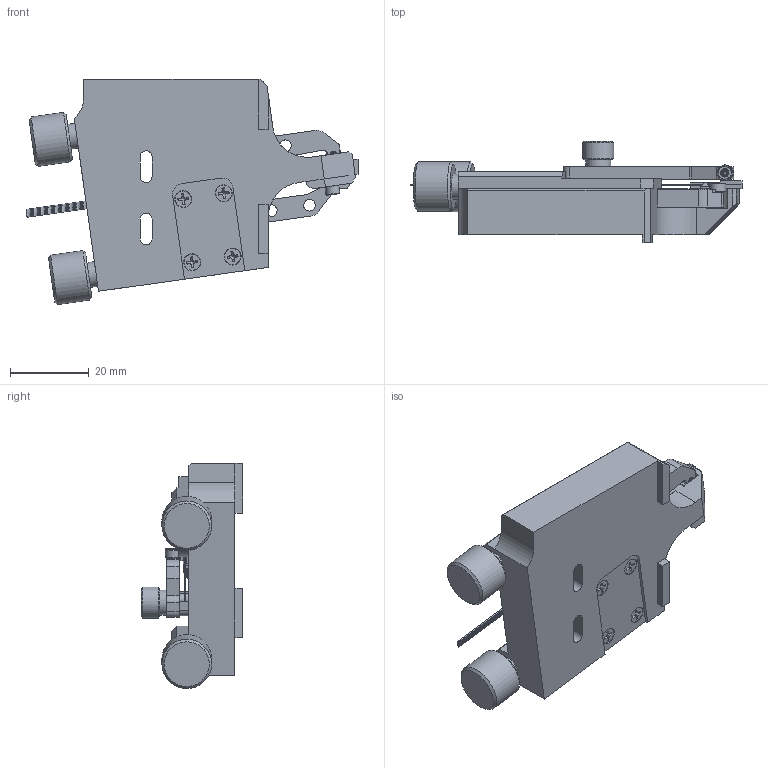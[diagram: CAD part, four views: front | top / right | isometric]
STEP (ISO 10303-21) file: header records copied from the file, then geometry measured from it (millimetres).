
FILE_DESCRIPTION(('', 'CAx-IF Rec.Pracs.---Representation and Presentation of Product Manufacturing Information (PMI)---4.0---2014-10-13'),'2;1');
FILE_NAME('C:/Users/JacobDiepeveen/OneDrive - Luminos/Documents/Jacob/CAD/PT Files/PT0231 Universal Fiber Array Holder/solids/NFAH-8CW.STP', '2026-01-20T21:44:57',(''), (''), 'Kubotek Kosmos Version 5.0.12905.12905', 'KeyCreator Pro', '');
FILE_SCHEMA(('AP242_MANAGED_MODEL_BASED_3D_ENGINEERING_MIM_LF { 1 0 10303 442 4 1 4 }'));
Length unit declared in the file: inch
Bounding box: 84.55 x 25.88 x 57.35 mm (x, y, z)
Volume: 35599.5 mm3; surface area: 13771.2 mm2
Topology: 5 solids, 5 shells, 595 faces, 1632 edges, 1102 vertices
Faces by surface type: plane 375, cylinder 138, cone 76, bspline 3, sphere 2, torus 1
Full cylindrical faces by diameter (mm): 0.125 x8, 0.249 x16, 1.499 x2, 1.511 x1, 1.702 x2, 1.778 x2, 2.02 x4, 2.158 x4, 2.845 x4, 2.946 x4, 3.342 x4, 3.454 x2, 3.556 x2, 4 x2, 6.35 x4, 7.938 x1, 12.7 x2
Entity records: 22647 total; most frequent: CARTESIAN_POINT 5150, ORIENTED_EDGE 3292, DIRECTION 2789, GENERAL_PROPERTY 2001, EDGE_CURVE 1646, VERTEX_POINT 1125, AXIS2_PLACEMENT_3D 946, VECTOR 897
